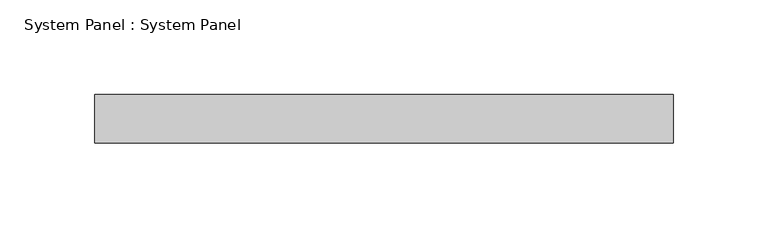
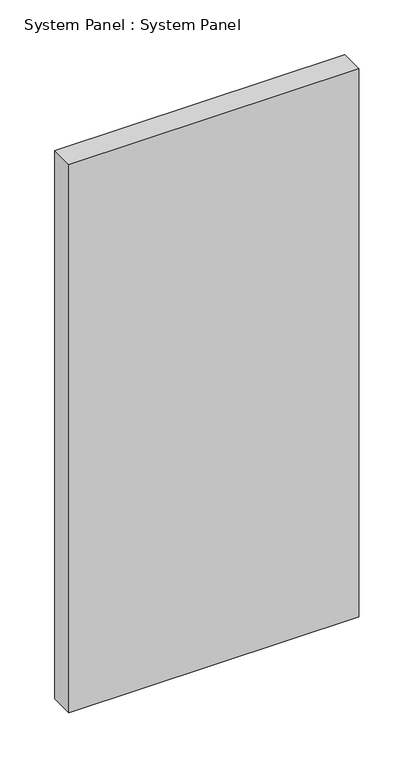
"""IFC4 building model written with IfcOpenShell, lengths in millimetres: plate geometry, System Panel : System Panel."""

from ifc_helpers import new_model, si_unit, origin, origin_with_axes, place, context, project, spatial, polyline, outline, extrude, source, transform, mapped, element, save


def system_panel_system_panel_58b53a08(model_context):
    return source(origin(), model_context, "Body", "SweptSolid", [
        extrude(outline(polyline([(152.4, 19.05), (-152.4, 19.05), (-152.4, 44.45), (152.4, 44.45), (152.4, 19.05)])), origin_with_axes(), (0.0, 0.0, 1.0), 609.6),
    ])


if __name__ == "__main__":
    model = new_model("IFC4")
    model_context = context("Model", 3, world=origin())
    ifc_project = project(units=[si_unit("LENGTHUNIT", "METRE", prefix="MILLI")], contexts=[model_context])
    site = spatial("IfcSite", under=ifc_project)
    building = spatial("IfcBuilding", under=site)
    placement = place(None, origin())
    system_panel_system_panel_shape = system_panel_system_panel_58b53a08(model_context)
    element("IfcPlate", 1, ObjectType="System Panel : System Panel", at=placement, inside=building, context=model_context, shape_type="MappedRepresentation", body=[
        mapped(system_panel_system_panel_shape, transform((0.0, 0.0, 0.0), x_axis=(1.0, 0.0, 0.0), y_axis=(0.0, 1.0, 0.0), z_axis=(0.0, 0.0, 1.0))),
    ])
    save(model, "model.ifc")
